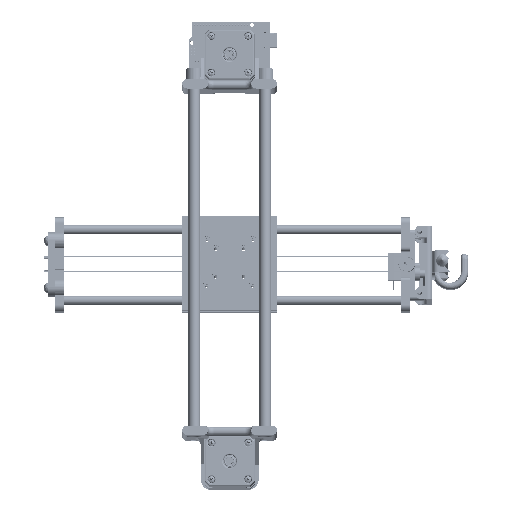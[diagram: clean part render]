
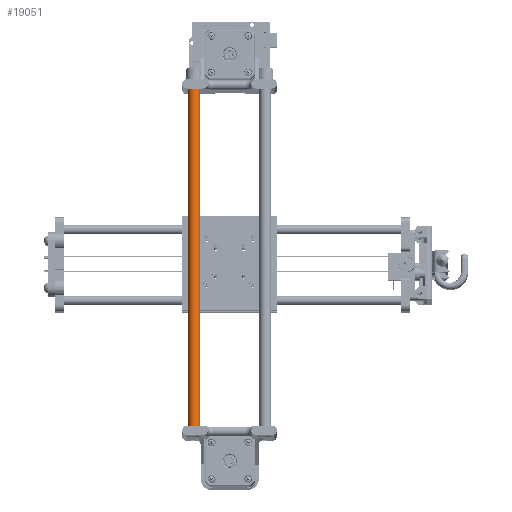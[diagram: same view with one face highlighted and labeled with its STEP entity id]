
A CAD part, front view. The second image highlights one B-rep face of the part: STEP entity #19051.
In plain terms, the highlighted cylindrical face has radius 5 mm (diameter 10 mm), a full revolution.
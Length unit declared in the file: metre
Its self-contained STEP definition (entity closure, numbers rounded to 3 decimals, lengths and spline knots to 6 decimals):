
#19051 = ADVANCED_FACE( '', ( #39272, #39273 ), #39274, .T. );
#39272 = FACE_OUTER_BOUND( '', #77968, .T. );
#39273 = FACE_OUTER_BOUND( '', #77969, .T. );
#39274 = CYLINDRICAL_SURFACE( '', #77970, 0.005 );
#77968 = EDGE_LOOP( '', ( #130828 ) );
#77969 = EDGE_LOOP( '', ( #130829 ) );
#77970 = AXIS2_PLACEMENT_3D( '', #130830, #130831, #130832 );
#130828 = ORIENTED_EDGE( '', *, *, #154170, .F. );
#130829 = ORIENTED_EDGE( '', *, *, #154169, .T. );
#130830 = CARTESIAN_POINT( '', ( 0.3, 0., 0.027284 ) );
#130831 = DIRECTION( '', ( 1., 0., 0. ) );
#130832 = DIRECTION( '', ( 0., 0., 1. ) );
#154169 = EDGE_CURVE( '', #192967, #192967, #192968, .T. );
#154170 = EDGE_CURVE( '', #192969, #192969, #192970, .T. );
#192967 = VERTEX_POINT( '', #251019 );
#192968 = CIRCLE( '', #251020, 0.005 );
#192969 = VERTEX_POINT( '', #251021 );
#192970 = CIRCLE( '', #251022, 0.005 );
#251019 = CARTESIAN_POINT( '', ( 0., 0.005, 0.027284 ) );
#251020 = AXIS2_PLACEMENT_3D( '', #270995, #270996, #270997 );
#251021 = CARTESIAN_POINT( '', ( 0.3, 0.005, 0.027284 ) );
#251022 = AXIS2_PLACEMENT_3D( '', #270998, #270999, #271000 );
#270995 = CARTESIAN_POINT( '', ( 0., 0., 0.027284 ) );
#270996 = DIRECTION( '', ( 1., 0., 0. ) );
#270997 = DIRECTION( '', ( 0., 1., 0. ) );
#270998 = CARTESIAN_POINT( '', ( 0.3, 0., 0.027284 ) );
#270999 = DIRECTION( '', ( 1., 0., 0. ) );
#271000 = DIRECTION( '', ( 0., 1., 0. ) );
